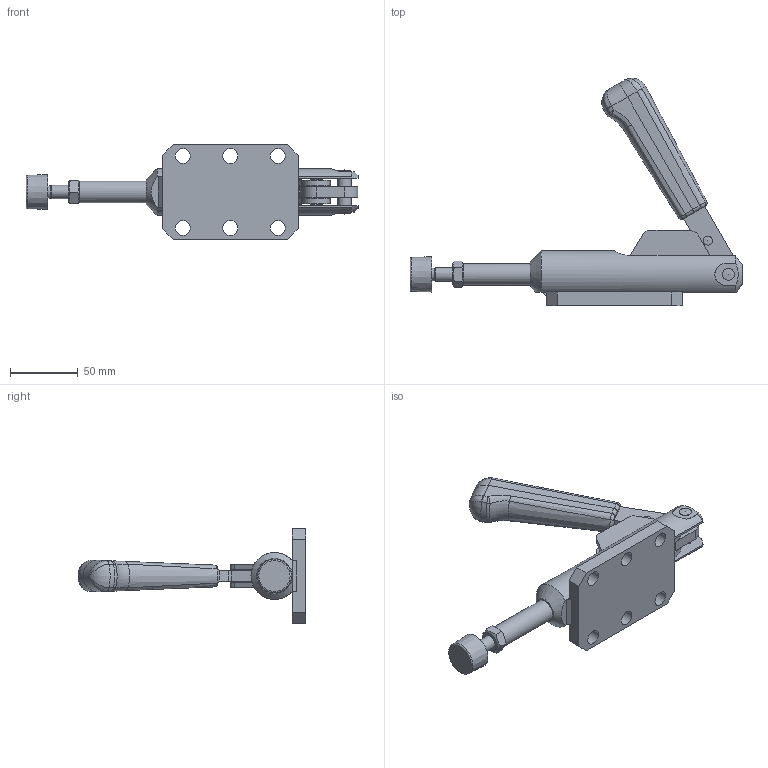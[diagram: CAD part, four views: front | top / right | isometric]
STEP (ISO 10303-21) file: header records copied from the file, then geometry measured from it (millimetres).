
FILE_DESCRIPTION(/* description */ (''),/* implementation_level */ '2;1');
FILE_NAME(/* name */ '/Users/eric/Desktop/Abco 2046 Push:Poussée.stp',/* time_stamp */ '2014-08-15T01:57:52+10:00',/* author */ (''),/* organization */ (''),/* preprocessor_version */ 'ST-DEVELOPER v14.6',/* originating_system */ '',/* authorisation */ '');
FILE_SCHEMA (('AUTOMOTIVE_DESIGN { 1 2 10303 214 1 1 1 1 }'));
Length unit declared in the file: centimetre
Products named in the file (1): 1234-K789
Bounding box: 244.46 x 167.38 x 70 mm (x, y, z)
Volume: 251808.9 mm3; surface area: 97469.9 mm2
Topology: 23 solids, 23 shells, 258 faces, 594 edges, 374 vertices
Faces by surface type: plane 116, cylinder 71, cone 34, bspline 22, torus 8, sphere 7
Full cylindrical faces by diameter (mm): 6 x2, 8 x17, 8.376 x2, 9.188 x1, 10 x5, 11 x6, 12 x4, 14 x2, 15.4 x2, 16 x2
Entity records: 7560 total; most frequent: CARTESIAN_POINT 2231, DIRECTION 1073, ORIENTED_EDGE 996, EDGE_CURVE 498, AXIS2_PLACEMENT_3D 441, EDGE_LOOP 376, VERTEX_POINT 354, ADVANCED_FACE 258
